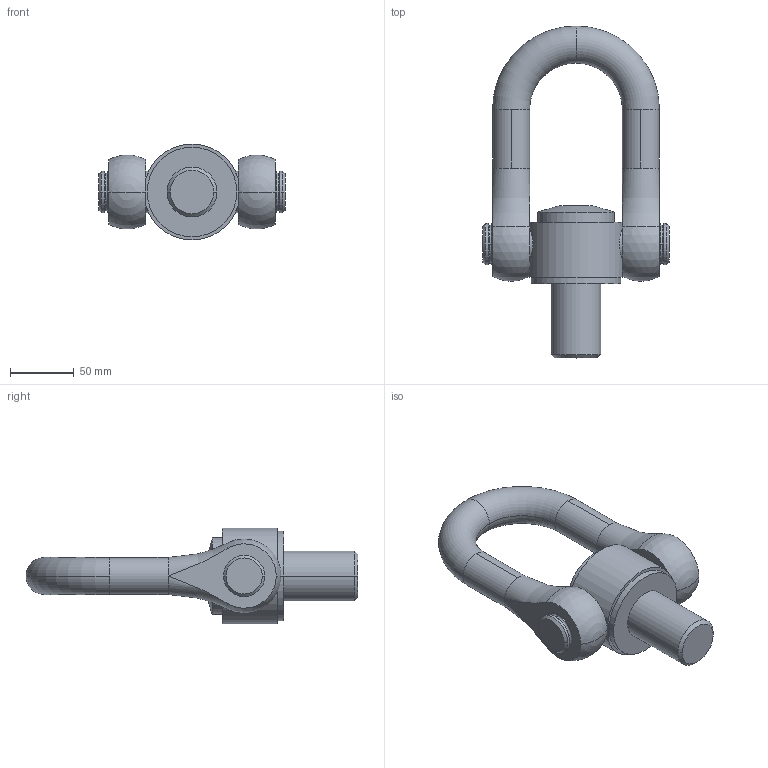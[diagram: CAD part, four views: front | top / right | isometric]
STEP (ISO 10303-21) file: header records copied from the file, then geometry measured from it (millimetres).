
FILE_DESCRIPTION( ( '' ), '1' );
FILE_NAME( 'c:/Temp/codipro/codipro_ss.dss_m39_90', '2011-05-12T08:15:52', ( '' ), ( '' ), ' ', ' ', ' ' );
FILE_SCHEMA( ( 'automotive_design' ) );
Length unit declared in the file: millimetre
Products named in the file (2): 1; 2
Bounding box: 145.5 x 259.5 x 74.72 mm (x, y, z)
Volume: 677081.3 mm3; surface area: 86154.1 mm2
Topology: 2 solids, 2 shells, 74 faces, 186 edges, 116 vertices
Faces by surface type: cylinder 24, plane 22, torus 16, cone 8, sphere 4
Entity records: 4545 total; most frequent: CARTESIAN_POINT 578, DIRECTION 432, STYLED_ITEM 374, PRESENTATION_STYLE_ASSIGNMENT 374, COLOUR_RGB 374, ORIENTED_EDGE 364, AXIS2_PLACEMENT_3D 186, EDGE_CURVE 182
